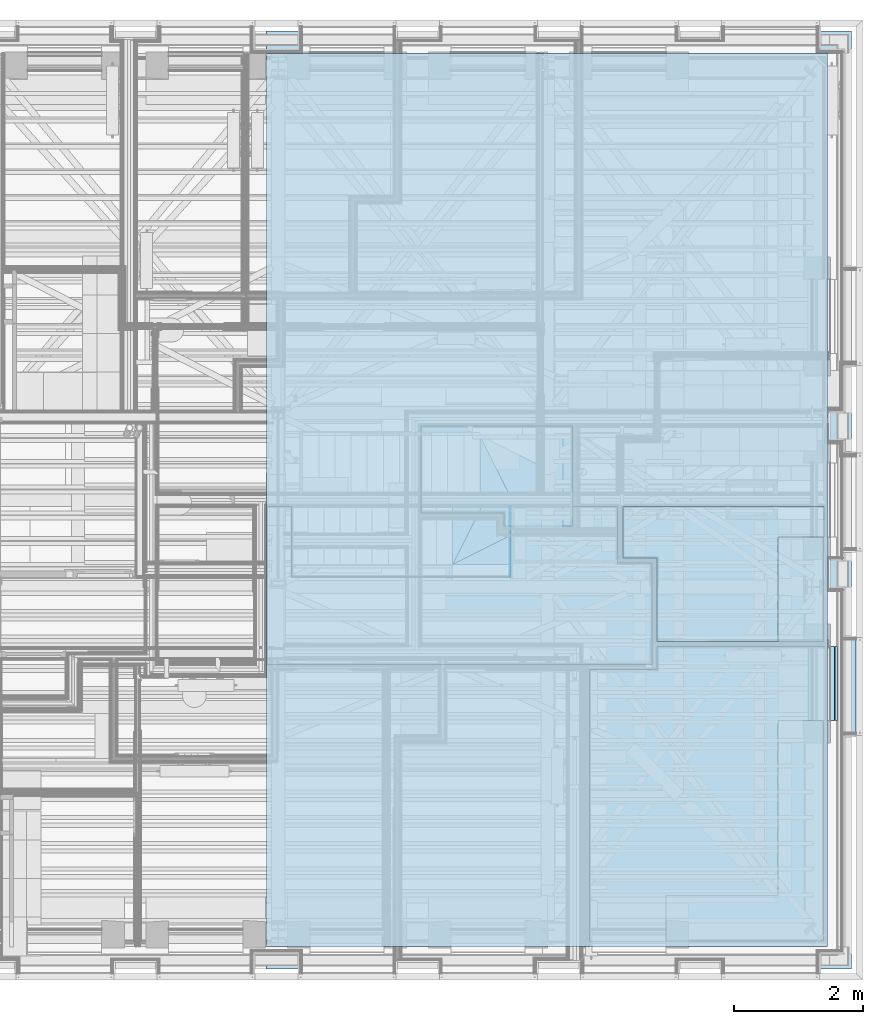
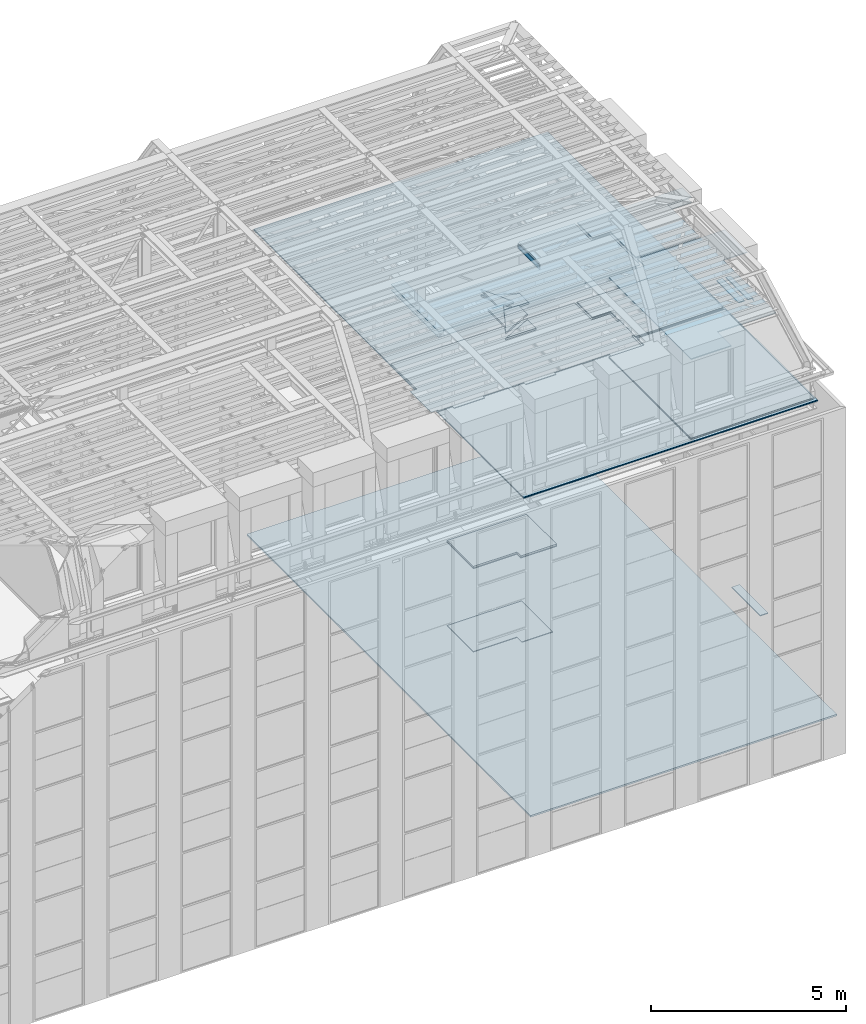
# One storey, part 93 of 183: 29 slabs.
"""IFC2X3 building model written with IfcOpenShell, lengths in metres."""

import ifcopenshell
import ifcopenshell.guid

model = None  # the IFC model being written
_history = None  # IfcOwnerHistory: only IFC2X3 demands one
_inside = {}  # id of a spatial element -> (the spatial element, [elements in it])
_under = {}  # id of a project, library or spatial element -> (it, [spatial elements below it])
_declared = {}  # id of a project -> (the project, [libraries it declares])
_typed = {}  # id of a type object -> (the type object, [elements of that type])
_made_of = {}  # id of a material, layer set ... -> (it, [elements and type objects made of it])


def new_model(schema):
    """Start an empty IFC model of exactly this schema.

    Asked for "IFC4X3", IfcOpenShell would pick the latest addendum, in which some entities
    have other attributes; the version numbers below select the first issue.
    IFC2X3 requires an IfcOwnerHistory on every rooted entity: one is made here for all.
    """
    global model, _history
    if schema == "IFC4X3":
        model = ifcopenshell.file(schema_version=(4, 3, 0, 0))
    else:
        model = ifcopenshell.file(schema=schema)
    _inside.clear()
    _under.clear()
    _declared.clear()
    _typed.clear()
    _made_of.clear()
    _history = None
    if model.schema == "IFC2X3":
        org = make("IfcOrganization", Name="unknown")
        user = make(
            "IfcPersonAndOrganization",
            ThePerson=make("IfcPerson", FamilyName="unknown"),
            TheOrganization=org,
        )
        app = make(
            "IfcApplication",
            ApplicationDeveloper=org,
            Version="unknown",
            ApplicationFullName="unknown",
            ApplicationIdentifier="unknown",
        )
        _history = make(
            "IfcOwnerHistory",
            OwningUser=user,
            OwningApplication=app,
            ChangeAction="ADDED",
            CreationDate=0,
        )
    return model


def make(cls, **values):
    """One entity of the class cls with the attributes given. An attribute that is None is left unset."""
    return model.create_entity(
        cls, **{name: value for name, value in values.items() if value is not None}
    )


def entity(cls, *values):
    """Any entity or typed value of the class cls, its attributes in the order of the schema. None: left unset."""
    e = model.create_entity(cls)
    for i, value in enumerate(values):
        if value is not None:
            e[i] = value
    return e


def rooted(cls, **values):
    """An entity with a GlobalId (a new one), such as an element, a storey or a relation."""
    return make(cls, GlobalId=ifcopenshell.guid.new(), OwnerHistory=_history, **values)


def si_unit(unit_type, name, prefix=None):
    """IfcSIUnit, for example si_unit("LENGTHUNIT", "METRE", prefix="MILLI")."""
    return make("IfcSIUnit", UnitType=unit_type, Prefix=prefix, Name=name)


def converted_unit(unit_type, name, factor, base, dimensions=None, offset=None):
    """IfcConversionBasedUnit, such as the inch: factor (a typed value) times the base unit."""
    return make(
        "IfcConversionBasedUnit"
        if offset is None
        else "IfcConversionBasedUnitWithOffset",
        ConversionOffset=offset,
        Dimensions=None
        if dimensions is None
        else entity("IfcDimensionalExponents", *dimensions),
        UnitType=unit_type,
        Name=name,
        ConversionFactor=make(
            "IfcMeasureWithUnit", ValueComponent=factor, UnitComponent=base
        ),
    )


def derived_unit(unit_type, elements):
    """IfcDerivedUnit: a product of units, each with its exponent."""
    return make(
        "IfcDerivedUnit",
        Elements=[
            make("IfcDerivedUnitElement", Unit=unit, Exponent=power)
            for unit, power in elements
        ],
        UnitType=unit_type,
    )


def money_unit(currency):
    """IfcMonetaryUnit."""
    return make("IfcMonetaryUnit", Currency=currency)


def assignment(units):
    """IfcUnitAssignment: the units of a project."""
    return None if units is None else make("IfcUnitAssignment", Units=units)


def point(xyz):
    """IfcCartesianPoint."""
    return None if xyz is None else make("IfcCartesianPoint", Coordinates=xyz)


def direction(xyz):
    """IfcDirection."""
    return None if xyz is None else make("IfcDirection", DirectionRatios=xyz)


def frame(location, z_axis=None, x_axis=None):
    """IfcAxis2Placement3D, a coordinate frame: its origin and axes. An axis left out is left unset."""
    return make(
        "IfcAxis2Placement3D",
        Location=point(location),
        Axis=direction(z_axis),
        RefDirection=direction(x_axis),
    )


def origin_with_axes():
    """The frame at (0, 0, 0) with the z axis (0, 0, 1) and the x axis (1, 0, 0) written out."""
    return frame((0.0, 0.0, 0.0), z_axis=(0.0, 0.0, 1.0), x_axis=(1.0, 0.0, 0.0))


def place(relative_to, where):
    """IfcLocalPlacement: puts the frame where relative to a parent placement (None: the world)."""
    return make(
        "IfcLocalPlacement", PlacementRelTo=relative_to, RelativePlacement=where
    )


def context(
    kind, dimensions, precision=None, world=None, true_north=None, identifier=None
):
    """IfcGeometricRepresentationContext, for example the 3D "Model" context."""
    return make(
        "IfcGeometricRepresentationContext",
        ContextIdentifier=identifier,
        ContextType=kind,
        CoordinateSpaceDimension=dimensions,
        Precision=precision,
        WorldCoordinateSystem=world,
        TrueNorth=true_north,
    )


def subcontext(parent, identifier, kind, view, scale=None):
    """IfcGeometricRepresentationSubContext, for example "Body" below "Model"."""
    return make(
        "IfcGeometricRepresentationSubContext",
        ContextIdentifier=identifier,
        ContextType=kind,
        ParentContext=parent,
        TargetScale=scale,
        TargetView=view,
    )


def project(units=None, contexts=None):
    """IfcProject with its units and contexts."""
    return rooted(
        "IfcProject",
        Name="project",
        RepresentationContexts=contexts,
        UnitsInContext=assignment(units),
    )


def spatial(cls, under=None, at=None, **own):
    """A site, building, storey or space (cls), placed at a placement, below another one or the project."""
    s = rooted(cls, ObjectPlacement=at, **own)
    if under is not None:
        _under.setdefault(under.id(), (under, []))[1].append(s)
    return s


def faces_of(points, faces, orient=None, outer=None):
    """IfcFace entities. A face is a list of loops; a loop is a list of indices into points, from 0.

    orient and outer hold one flag for each loop. By default every Orientation is true, the
    first loop of a face is its IfcFaceOuterBound and the others are IfcFaceBound.
    """
    made = []
    for i, loops in enumerate(faces):
        bounds = []
        for j, loop in enumerate(loops):
            is_outer = j == 0 if outer is None else outer[i][j]
            bounds.append(
                make(
                    "IfcFaceOuterBound" if is_outer else "IfcFaceBound",
                    Bound=make("IfcPolyLoop", Polygon=[points[k] for k in loop]),
                    Orientation=True if orient is None else orient[i][j],
                )
            )
        made.append(make("IfcFace", Bounds=bounds))
    return made


def faceted_brep(points, faces, orient=None, outer=None, voids=None):
    """IfcFacetedBrep: a solid bounded by flat faces; with voids (closed shells), ...WithVoids."""
    shared = [point(p) for p in points]
    hull = make("IfcClosedShell", CfsFaces=faces_of(shared, faces, orient, outer))
    if voids is None:
        return make("IfcFacetedBrep", Outer=hull)
    return make(
        "IfcFacetedBrepWithVoids",
        Outer=hull,
        Voids=[
            make(cls, CfsFaces=faces_of(shared, fs, o, b)) for cls, fs, o, b in voids
        ],
    )


def shape(context_of_items, identifier, shape_type, items):
    """IfcShapeRepresentation: the items that make up one representation, for example the "Body"."""
    return make(
        "IfcShapeRepresentation",
        ContextOfItems=context_of_items,
        RepresentationIdentifier=identifier,
        RepresentationType=shape_type,
        Items=items,
    )


def material(Name=None, Category=None):
    """IfcMaterial."""
    return make("IfcMaterial", Name=Name, Category=Category)


def made_of(thing, what):
    """Note that an element or type object is made of a material, layer set ...; save() writes the relation."""
    if what is not None:
        _made_of.setdefault(what.id(), (what, []))[1].append(thing)
    return thing


def type_object(cls, material=None, **own):
    """A type object (cls), such as IfcWallType, which elements share."""
    return made_of(rooted(cls, **own), material)


def element(
    cls,
    number,
    at=None,
    inside=None,
    cuts=None,
    type_object=None,
    material=None,
    context=None,
    identifier="Body",
    shape_type=None,
    held_by="IfcProductDefinitionShape",
    body=None,
    shapes=None,
    **own,
):
    """One element of the class cls, such as IfcWall. Its Tag is "e" and its number.

    at: its placement. inside: the storey or other place that contains it. cuts: it is an
    opening in that element (IfcRelVoidsElement). A single representation is given by context,
    identifier, shape_type and body (its items); several are given by shapes. held_by: the class
    of the entity that holds the representations. save() writes the other relations.
    """
    e = rooted(cls, Tag="e%d" % number, ObjectPlacement=at, **own)
    if body is not None:
        shapes = [shape(context, identifier, shape_type, body)]
    if shapes is not None:
        e.Representation = make(held_by, Representations=shapes)
    if inside is not None:
        _inside.setdefault(inside.id(), (inside, []))[1].append(e)
    if cuts is not None:
        rooted(
            "IfcRelVoidsElement", RelatingBuildingElement=cuts, RelatedOpeningElement=e
        )
    if type_object is not None:
        _typed.setdefault(type_object.id(), (type_object, []))[1].append(e)
    return made_of(e, material)


def aggregate(whole, parts):
    """IfcRelAggregates: a whole, such as a stair, and the parts it consists of."""
    return rooted("IfcRelAggregates", RelatingObject=whole, RelatedObjects=parts)


def save(model, path):
    """Write the relations noted so far, then the file.

    IfcRelAggregates (storeys below a building ...), IfcRelContainedInSpatialStructure (elements
    in a storey), IfcRelDefinesByType, IfcRelAssociatesMaterial and IfcRelDeclares: one each for
    every whole, place, type object, material and project.
    """
    for whole, parts in _under.values():
        aggregate(whole, parts)
    for where, things in _inside.values():
        rooted(
            "IfcRelContainedInSpatialStructure",
            RelatedElements=things,
            RelatingStructure=where,
        )
    for kind, things in _typed.values():
        rooted("IfcRelDefinesByType", RelatedObjects=things, RelatingType=kind)
    for what, things in _made_of.values():
        rooted("IfcRelAssociatesMaterial", RelatedObjects=things, RelatingMaterial=what)
    for by, libraries in _declared.values():
        rooted("IfcRelDeclares", RelatingContext=by, RelatedDefinitions=libraries)
    model.write(path)


model = new_model("IFC2X3")

# Units and contexts
model_context = context("Model", 3, precision=1e-05, world=origin_with_axes(), true_north=direction((0.0, 1.0)))
body_context = subcontext(model_context, "Body", "Model", "MODEL_VIEW", scale=1.0)
ifc_project = project(units=[si_unit("LENGTHUNIT", "METRE"), si_unit("AREAUNIT", "SQUARE_METRE"), si_unit("VOLUMEUNIT", "CUBIC_METRE"), si_unit("ABSORBEDDOSEUNIT", "GRAY"), si_unit("AMOUNTOFSUBSTANCEUNIT", "MOLE"), si_unit("DOSEEQUIVALENTUNIT", "SIEVERT"), si_unit("ELECTRICCAPACITANCEUNIT", "FARAD"), si_unit("ELECTRICCHARGEUNIT", "COULOMB"), si_unit("ELECTRICCONDUCTANCEUNIT", "SIEMENS"), si_unit("ELECTRICCURRENTUNIT", "AMPERE"), si_unit("ELECTRICRESISTANCEUNIT", "OHM"), si_unit("ELECTRICVOLTAGEUNIT", "VOLT"), si_unit("ENERGYUNIT", "JOULE"), si_unit("FORCEUNIT", "NEWTON"), si_unit("FREQUENCYUNIT", "HERTZ"), si_unit("ILLUMINANCEUNIT", "LUX"), si_unit("INDUCTANCEUNIT", "HENRY"), si_unit("LUMINOUSFLUXUNIT", "LUMEN"), si_unit("LUMINOUSINTENSITYUNIT", "CANDELA"), si_unit("MAGNETICFLUXDENSITYUNIT", "TESLA"), si_unit("MAGNETICFLUXUNIT", "WEBER"), si_unit("MASSUNIT", "GRAM"), converted_unit("PLANEANGLEUNIT", "degree", entity("IfcReal", 0.0174532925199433), si_unit("PLANEANGLEUNIT", "RADIAN"), dimensions=[0, 0, 0, 0, 0, 0, 0]), si_unit("POWERUNIT", "WATT"), si_unit("PRESSUREUNIT", "PASCAL"), si_unit("RADIOACTIVITYUNIT", "BECQUEREL"), si_unit("SOLIDANGLEUNIT", "STERADIAN"), si_unit("THERMODYNAMICTEMPERATUREUNIT", "KELVIN"), si_unit("TIMEUNIT", "SECOND"), derived_unit("ACCELERATIONUNIT", [(si_unit("LENGTHUNIT", "METRE"), 1), (si_unit("TIMEUNIT", "SECOND"), -2)]), derived_unit("ANGULARVELOCITYUNIT", [(converted_unit("PLANEANGLEUNIT", "degree", entity("IfcReal", 0.0174532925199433), si_unit("PLANEANGLEUNIT", "RADIAN"), dimensions=[0, 0, 0, 0, 0, 0, 0]), 1), (si_unit("TIMEUNIT", "SECOND"), -1)]), derived_unit("CURVATUREUNIT", [(converted_unit("PLANEANGLEUNIT", "degree", entity("IfcReal", 0.0174532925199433), si_unit("PLANEANGLEUNIT", "RADIAN"), dimensions=[0, 0, 0, 0, 0, 0, 0]), 1), (si_unit("LENGTHUNIT", "METRE"), -1)]), derived_unit("DYNAMICVISCOSITYUNIT", [(si_unit("PRESSUREUNIT", "PASCAL"), 1), (si_unit("TIMEUNIT", "SECOND"), 1)]), derived_unit("HEATFLUXDENSITYUNIT", [(si_unit("POWERUNIT", "WATT"), 1), (si_unit("LENGTHUNIT", "METRE"), -2)]), derived_unit("HEATINGVALUEUNIT", [(si_unit("ENERGYUNIT", "JOULE"), 1), (si_unit("MASSUNIT", "GRAM"), -1)]), derived_unit("INTEGERCOUNTRATEUNIT", [(si_unit("TIMEUNIT", "SECOND"), -1)]), derived_unit("IONCONCENTRATIONUNIT", [(si_unit("MASSUNIT", "GRAM"), 1), (si_unit("VOLUMEUNIT", "CUBIC_METRE"), -1)]), derived_unit("ISOTHERMALMOISTURECAPACITYUNIT", [(si_unit("VOLUMEUNIT", "CUBIC_METRE"), 1), (si_unit("MASSUNIT", "GRAM"), -1)]), derived_unit("KINEMATICVISCOSITYUNIT", [(si_unit("AREAUNIT", "SQUARE_METRE"), 1), (si_unit("TIMEUNIT", "SECOND"), -1)]), derived_unit("LINEARFORCEUNIT", [(si_unit("FORCEUNIT", "NEWTON"), 1), (si_unit("LENGTHUNIT", "METRE"), -1)]), derived_unit("LINEARMOMENTUNIT", [(si_unit("FORCEUNIT", "NEWTON"), 1), (si_unit("LENGTHUNIT", "METRE"), -1)]), derived_unit("LINEARSTIFFNESSUNIT", [(si_unit("FORCEUNIT", "NEWTON"), 1), (si_unit("LENGTHUNIT", "METRE"), -1)]), derived_unit("LINEARVELOCITYUNIT", [(si_unit("LENGTHUNIT", "METRE"), 1), (si_unit("TIMEUNIT", "SECOND"), -1)]), derived_unit("LUMINOUSINTENSITYDISTRIBUTIONUNIT", [(si_unit("LUMINOUSINTENSITYUNIT", "CANDELA"), 1), (si_unit("LUMINOUSFLUXUNIT", "LUMEN"), -1)]), derived_unit("MASSDENSITYUNIT", [(si_unit("MASSUNIT", "GRAM"), 1), (si_unit("VOLUMEUNIT", "CUBIC_METRE"), -1)]), derived_unit("MASSFLOWRATEUNIT", [(si_unit("MASSUNIT", "GRAM"), 1), (si_unit("TIMEUNIT", "SECOND"), -1)]), derived_unit("MASSPERLENGTHUNIT", [(si_unit("MASSUNIT", "GRAM"), 1), (si_unit("LENGTHUNIT", "METRE"), -1)]), derived_unit("MODULUSOFELASTICITYUNIT", [(si_unit("FORCEUNIT", "NEWTON"), 1), (si_unit("AREAUNIT", "SQUARE_METRE"), -1)]), derived_unit("MODULUSOFLINEARSUBGRADEREACTIONUNIT", [(si_unit("FORCEUNIT", "NEWTON"), 1), (si_unit("LENGTHUNIT", "METRE"), -2)]), derived_unit("MODULUSOFROTATIONALSUBGRADEREACTIONUNIT", [(si_unit("FORCEUNIT", "NEWTON"), 1), (si_unit("LENGTHUNIT", "METRE"), 1)]), derived_unit("MODULUSOFSUBGRADEREACTIONUNIT", [(si_unit("FORCEUNIT", "NEWTON"), 1), (si_unit("VOLUMEUNIT", "CUBIC_METRE"), -1)]), derived_unit("MOISTUREDIFFUSIVITYUNIT", [(si_unit("VOLUMEUNIT", "CUBIC_METRE"), 1), (si_unit("TIMEUNIT", "SECOND"), -1)]), derived_unit("MOLECULARWEIGHTUNIT", [(si_unit("MASSUNIT", "GRAM"), 1), (si_unit("AMOUNTOFSUBSTANCEUNIT", "MOLE"), -1)]), derived_unit("PLANARFORCEUNIT", [(si_unit("FORCEUNIT", "NEWTON"), 1), (si_unit("LENGTHUNIT", "METRE"), -2)]), derived_unit("ROTATIONALFREQUENCYUNIT", [(si_unit("TIMEUNIT", "SECOND"), -1)]), derived_unit("ROTATIONALMASSUNIT", [(si_unit("MASSUNIT", "GRAM"), 1), (si_unit("LENGTHUNIT", "METRE"), 2)]), derived_unit("ROTATIONALSTIFFNESSUNIT", [(si_unit("FORCEUNIT", "NEWTON"), 1), (si_unit("LENGTHUNIT", "METRE"), 1), (converted_unit("PLANEANGLEUNIT", "degree", entity("IfcReal", 0.0174532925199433), si_unit("PLANEANGLEUNIT", "RADIAN"), dimensions=[0, 0, 0, 0, 0, 0, 0]), -1)]), derived_unit("SECTIONAREAINTEGRALUNIT", [(si_unit("LENGTHUNIT", "METRE"), 5)]), derived_unit("SECTIONMODULUSUNIT", [(si_unit("LENGTHUNIT", "METRE"), 3)]), derived_unit("SHEARMODULUSUNIT", [(si_unit("FORCEUNIT", "NEWTON"), 1), (si_unit("AREAUNIT", "SQUARE_METRE"), -1)]), derived_unit("SOUNDPOWERUNIT", [(si_unit("ENERGYUNIT", "JOULE"), 1), (si_unit("TIMEUNIT", "SECOND"), -1)]), derived_unit("SPECIFICHEATCAPACITYUNIT", [(si_unit("FORCEUNIT", "NEWTON"), 1), (si_unit("MASSUNIT", "GRAM"), -1), (si_unit("THERMODYNAMICTEMPERATUREUNIT", "KELVIN"), -1)]), derived_unit("TEMPERATUREGRADIENTUNIT", [(si_unit("THERMODYNAMICTEMPERATUREUNIT", "KELVIN"), 1), (si_unit("LENGTHUNIT", "METRE"), -1)]), derived_unit("THERMALADMITTANCEUNIT", [(si_unit("POWERUNIT", "WATT"), 1), (si_unit("AREAUNIT", "SQUARE_METRE"), -1), (si_unit("THERMODYNAMICTEMPERATUREUNIT", "KELVIN"), -1)]), derived_unit("THERMALCONDUCTANCEUNIT", [(si_unit("POWERUNIT", "WATT"), 1), (si_unit("LENGTHUNIT", "METRE"), -1), (si_unit("THERMODYNAMICTEMPERATUREUNIT", "KELVIN"), -1)]), derived_unit("THERMALEXPANSIONCOEFFICIENTUNIT", [(si_unit("THERMODYNAMICTEMPERATUREUNIT", "KELVIN"), -1)]), derived_unit("THERMALRESISTANCEUNIT", [(si_unit("AREAUNIT", "SQUARE_METRE"), 1), (si_unit("POWERUNIT", "WATT"), -1)]), derived_unit("THERMALTRANSMITTANCEUNIT", [(si_unit("POWERUNIT", "WATT"), 1), (si_unit("AREAUNIT", "SQUARE_METRE"), -1), (si_unit("THERMODYNAMICTEMPERATUREUNIT", "KELVIN"), -1)]), derived_unit("TORQUEUNIT", [(si_unit("FORCEUNIT", "NEWTON"), 1), (si_unit("LENGTHUNIT", "METRE"), 1)]), derived_unit("VAPORPERMEABILITYUNIT", [(si_unit("MASSUNIT", "GRAM"), 1), (si_unit("TIMEUNIT", "SECOND"), -1)]), derived_unit("VOLUMETRICFLOWRATEUNIT", [(si_unit("VOLUMEUNIT", "CUBIC_METRE"), 1), (si_unit("TIMEUNIT", "SECOND"), -1)]), derived_unit("WARPINGCONSTANTUNIT", [(si_unit("LENGTHUNIT", "METRE"), 6)]), derived_unit("WARPINGMOMENTUNIT", [(si_unit("FORCEUNIT", "NEWTON"), 1), (si_unit("LENGTHUNIT", "METRE"), 2)]), money_unit("GBP")], contexts=[model_context])

# Site, building, storey
site_placement = place(None, origin_with_axes())
site = spatial("IfcSite", under=ifc_project, at=site_placement, Name="Site", CompositionType="ELEMENT")
building_placement = place(site_placement, origin_with_axes())
building = spatial("IfcBuilding", under=site, at=building_placement, Name="Building01", CompositionType="ELEMENT")
storey_placement = place(building_placement, frame((0.0, 0.0, 5.15), z_axis=(0.0, 0.0, 1.0), x_axis=(1.0, 0.0, 0.0)))
storey = spatial("IfcBuildingStorey", under=building, at=storey_placement, Name="1F", CompositionType="ELEMENT", Elevation=5.15)

# Slabs
ifc_material_1 = material(Name="A_BSUK_InternalFinishes_FloorScreed")
slab_type_1 = type_object("IfcSlabType", Name="A-FloorsSlabs A_BSUK_Slabs", PredefinedType="FLOOR")
placement = place(storey_placement, frame((0.0, 0.0, -5.15), z_axis=(0.0, 0.0, 1.0), x_axis=(1.0, 0.0, 0.0)))
element("IfcSlab", 1, at=placement, inside=storey, type_object=slab_type_1, material=ifc_material_1, Name="A-FloorsSlabs A_BSUK_Slabs", ObjectType="CompoundSlabLeaf", context=body_context, shape_type="Brep", body=[
    faceted_brep([(17.73, 14.73, 5.1), (17.73, 14.73, 5.15), (26.81, 14.73, 5.15), (26.81, 14.73, 5.1), (17.73, 0.17, 5.1), (17.73, 0.17, 5.15), (26.81, 0.17, 5.1), (26.81, 0.17, 5.15)], [[[0, 1, 2, 3]], [[4, 5, 1, 0]], [[6, 7, 5, 4]], [[3, 2, 7, 6]], [[1, 5, 7, 2]], [[3, 6, 4, 0]]]),
])
ifc_material_2 = material(Name="A_BSUK_Ceramic_FloorTiles")
element("IfcSlab", 2, at=placement, inside=storey, type_object=slab_type_1, material=ifc_material_2, Name="A-FloorsSlabs A_BSUK_Slabs", ObjectType="CompoundSlabLeaf", context=body_context, shape_type="Brep", body=[
    faceted_brep([(20.122661, 8.595, 5.153), (20.122661, 8.595, 5.165), (22.326661, 8.595, 5.165), (22.326661, 8.595, 5.153), (20.122661, 7.25, 5.153), (20.122661, 7.25, 5.165), (21.417661, 7.25, 5.153), (21.417661, 7.25, 5.165), (21.417661, 7.0, 5.153), (21.417661, 7.0, 5.165), (22.326661, 7.0, 5.153), (22.326661, 7.0, 5.165)], [[[0, 1, 2, 3]], [[4, 5, 1, 0]], [[6, 7, 5, 4]], [[8, 9, 7, 6]], [[10, 11, 9, 8]], [[3, 2, 11, 10]], [[1, 5, 7, 9, 11, 2]], [[3, 10, 8, 6, 4, 0]]]),
])
ifc_material_3 = material(Name="A_BSUK_CeilingSoffitFinishes_Suspended")
element("IfcSlab", 3, at=placement, inside=storey, type_object=slab_type_1, material=ifc_material_3, Name="A-FloorsSlabs A_BSUK_Slabs", ObjectType="CompoundSlabLeaf", context=body_context, shape_type="Brep", body=[
    faceted_brep([(20.122661, 8.595, 7.765), (20.122661, 8.595, 7.78), (22.476661, 8.595, 7.78), (22.476661, 8.595, 7.765), (20.122661, 7.25, 7.765), (20.122661, 7.25, 7.78), (21.417661, 7.25, 7.765), (21.417661, 7.25, 7.78), (21.417661, 7.05, 7.765), (21.417661, 7.05, 7.78), (22.476661, 7.05, 7.765), (22.476661, 7.05, 7.78)], [[[0, 1, 2, 3]], [[4, 5, 1, 0]], [[6, 7, 5, 4]], [[8, 9, 7, 6]], [[10, 11, 9, 8]], [[3, 2, 11, 10]], [[1, 5, 7, 9, 11, 2]], [[3, 10, 8, 6, 4, 0]]]),
])
ifc_material_4 = material(Name="A_BSUK_Timber_Miscellaneous")
element("IfcSlab", 4, at=placement, inside=storey, type_object=slab_type_1, material=ifc_material_4, Name="A-FloorsSlabs A_BSUK_Slabs", ObjectType="CompoundSlabLeaf", context=body_context, shape_type="Brep", body=[
    faceted_brep([(26.88, 3.82218, 6.065), (26.88, 3.82218, 6.09), (26.646998, 3.82218, 6.09), (26.646998, 3.82218, 6.065), (26.88, 5.29218, 6.065), (26.88, 5.29218, 6.09), (26.647, 5.29218, 6.065), (26.647, 5.29218, 6.09)], [[[0, 1, 2, 3]], [[4, 5, 1, 0]], [[6, 7, 5, 4]], [[3, 2, 7, 6]], [[1, 5, 7, 2]], [[3, 6, 4, 0]]]),
])
slab_5_placement = place(storey_placement, frame((26.404661, 5.174964, 10.78), z_axis=(0.0, 0.0, 1.0), x_axis=(0.0, -1.0, 0.0)))
element("IfcSlab", 5, at=slab_5_placement, inside=storey, type_object=slab_type_1, material=ifc_material_4, Name="A-FloorsSlabs A_BSUK_Slabs", ObjectType="A-FloorsSlabs A_BSUK_Slabs", context=body_context, shape_type="Brep", body=[
    faceted_brep([(0.0, 0.0, 0.0), (1.15, 0.0, 0.0), (1.15, 0.0, 0.022498), (0.0, 0.0, 0.022498), (1.15, 0.142391, 0.017505), (0.0, 0.142391, 0.017505), (1.15, 0.148079, 0.0), (0.0, 0.148079, 0.0)], [[[0, 1, 2, 3]], [[3, 2, 4, 5]], [[5, 4, 6, 7]], [[7, 6, 1, 0]], [[1, 6, 4, 2]], [[3, 5, 7, 0]]]),
])
ifc_material_5 = material(Name="A_BSUK_Steel_Miscellaneous")
slab_6_placement = place(storey_placement, frame((26.404661, 5.174964, 10.802498), z_axis=(0.0, 0.0, 1.0), x_axis=(0.0, -1.0, 0.0)))
element("IfcSlab", 6, at=slab_6_placement, inside=storey, type_object=slab_type_1, material=ifc_material_5, Name="A-FloorsSlabs A_BSUK_Slabs", ObjectType="A-FloorsSlabs A_BSUK_Slabs", context=body_context, shape_type="Brep", body=[
    faceted_brep([(0.0, 0.0, 0.0), (1.15, 0.0, 0.0), (1.15, 0.0, 0.007502), (0.0, 0.0, 0.007502), (1.15, 0.001, 0.007502), (0.0, 0.001, 0.007502), (1.15, 0.0025, 0.002414), (0.0, 0.0025, 0.002414), (1.15, 0.144228, -0.002556), (0.0, 0.144228, -0.002556), (1.15, 0.183199, -0.122498), (0.0, 0.183199, -0.122498), (1.15, 0.183199, -0.127498), (0.0, 0.183199, -0.127498), (1.15, 0.180699, -0.127498), (0.0, 0.180699, -0.127498), (1.15, 0.180699, -0.122894), (0.0, 0.180699, -0.122894), (1.15, 0.142391, -0.004993), (0.0, 0.142391, -0.004993)], [[[0, 1, 2, 3]], [[3, 2, 4, 5]], [[5, 4, 6, 7]], [[7, 6, 8, 9]], [[9, 8, 10, 11]], [[11, 10, 12, 13]], [[13, 12, 14, 15]], [[15, 14, 16, 17]], [[17, 16, 18, 19]], [[19, 18, 1, 0]], [[1, 18, 16, 14, 12, 10, 8, 6, 4, 2]], [[3, 5, 7, 9, 11, 13, 15, 17, 19, 0]]]),
])
element("IfcSlab", 7, at=placement, inside=storey, type_object=slab_type_1, material=ifc_material_3, Name="A-FloorsSlabs A_BSUK_Slabs", ObjectType="CompoundSlabLeaf", context=body_context, shape_type="Brep", body=[
    faceted_brep([(23.79, 5.174915, 17.423), (23.79, 5.174915, 17.438), (26.380061, 5.174915, 17.438), (26.380061, 5.174915, 17.423), (23.79, 4.817, 17.423), (23.79, 4.817, 17.438), (22.740024, 4.817, 17.423), (22.740024, 4.817, 17.438), (22.740024, 0.599939, 17.423), (22.740024, 0.599939, 17.438), (23.930024, 0.599939, 17.423), (23.930024, 0.599939, 17.438), (23.930024, 1.312402, 17.423), (23.930024, 1.312402, 17.438), (25.667598, 1.312402, 17.423), (25.667598, 1.312402, 17.438), (25.667598, 4.024964, 17.423), (25.667598, 4.024964, 17.438), (26.380061, 4.024964, 17.423), (26.380061, 4.024964, 17.438)], [[[0, 1, 2, 3]], [[4, 5, 1, 0]], [[6, 7, 5, 4]], [[8, 9, 7, 6]], [[10, 11, 9, 8]], [[12, 13, 11, 10]], [[14, 15, 13, 12]], [[16, 17, 15, 14]], [[18, 19, 17, 16]], [[3, 2, 19, 18]], [[1, 5, 7, 9, 11, 13, 15, 17, 19, 2]], [[3, 18, 16, 14, 12, 10, 8, 6, 4, 0]]]),
])
element("IfcSlab", 8, at=placement, inside=storey, type_object=slab_type_1, material=ifc_material_3, Name="A-FloorsSlabs A_BSUK_Slabs", ObjectType="CompoundSlabLeaf", context=body_context, shape_type="Brep", body=[
    faceted_brep([(23.258821, 7.349915, 17.423), (23.258821, 7.349915, 17.438), (26.380061, 7.349915, 17.438), (26.380061, 7.349915, 17.423), (23.258821, 6.550085, 17.423), (23.258821, 6.550085, 17.438), (23.79, 6.550085, 17.423), (23.79, 6.550085, 17.438), (23.79, 5.254915, 17.423), (23.79, 5.254915, 17.438), (25.667598, 5.254915, 17.423), (25.667598, 5.254915, 17.438), (25.667598, 6.874964, 17.423), (25.667598, 6.874964, 17.438), (26.380061, 6.874964, 17.423), (26.380061, 6.874964, 17.438)], [[[0, 1, 2, 3]], [[4, 5, 1, 0]], [[6, 7, 5, 4]], [[8, 9, 7, 6]], [[10, 11, 9, 8]], [[12, 13, 11, 10]], [[14, 15, 13, 12]], [[3, 2, 15, 14]], [[1, 5, 7, 9, 11, 13, 15, 2]], [[3, 14, 12, 10, 8, 6, 4, 0]]]),
])
ifc_material_6 = material(Name="A_BSUK_ExpandedPolystyreneBoards")
element("IfcSlab", 9, at=placement, inside=storey, type_object=slab_type_1, material=ifc_material_6, Name="A-FloorsSlabs A_BSUK_Slabs", ObjectType="CompoundSlabLeaf", context=body_context, shape_type="Brep", body=[
    faceted_brep([(23.79, 5.174915, 14.92), (23.79, 5.174915, 14.952), (26.3762, 5.174915, 14.952), (26.3762, 5.174915, 14.92), (23.79, 4.817, 14.92), (23.79, 4.817, 14.952), (22.740024, 4.817, 14.92), (22.740024, 4.817, 14.952), (22.740024, 0.6038, 14.92), (22.740024, 0.6038, 14.952), (23.930024, 0.6038, 14.92), (23.930024, 0.6038, 14.952), (26.3762, 0.6038, 14.92), (26.3762, 0.6038, 14.952), (26.3762, 4.024964, 14.92), (26.3762, 4.024964, 14.952)], [[[0, 1, 2, 3]], [[4, 5, 1, 0]], [[6, 7, 5, 4]], [[8, 9, 7, 6]], [[10, 11, 9, 8]], [[12, 13, 11, 10]], [[14, 15, 13, 12]], [[3, 2, 15, 14]], [[1, 5, 7, 9, 11, 13, 15, 2]], [[3, 14, 12, 10, 8, 6, 4, 0]]]),
])
element("IfcSlab", 10, at=placement, inside=storey, type_object=slab_type_1, material=ifc_material_6, Name="A-FloorsSlabs A_BSUK_Slabs", ObjectType="CompoundSlabLeaf", context=body_context, shape_type="Brep", body=[
    faceted_brep([(23.258821, 7.349915, 14.92), (23.258821, 7.349915, 14.952), (26.3762, 7.349915, 14.952), (26.3762, 7.349915, 14.92), (23.258821, 6.550085, 14.92), (23.258821, 6.550085, 14.952), (23.79, 6.550085, 14.92), (23.79, 6.550085, 14.952), (23.79, 5.254915, 14.92), (23.79, 5.254915, 14.952), (26.3762, 5.254915, 14.92), (26.3762, 5.254915, 14.952), (26.3762, 6.874964, 14.92), (26.3762, 6.874964, 14.952)], [[[0, 1, 2, 3]], [[4, 5, 1, 0]], [[6, 7, 5, 4]], [[8, 9, 7, 6]], [[10, 11, 9, 8]], [[12, 13, 11, 10]], [[3, 2, 13, 12]], [[1, 5, 7, 9, 11, 13, 2]], [[3, 12, 10, 8, 6, 4, 0]]]),
])
element("IfcSlab", 11, at=placement, inside=storey, type_object=slab_type_1, material=ifc_material_4, Name="A-FloorsSlabs A_BSUK_Slabs", ObjectType="CompoundSlabLeaf", context=body_context, shape_type="Brep", body=[
    faceted_brep([(26.304661, 4.024964, 15.93), (26.304661, 4.024964, 15.955), (26.130059, 4.024964, 15.955), (26.130059, 4.024964, 15.93), (26.304661, 5.174964, 15.93), (26.304661, 5.174964, 15.955), (26.130061, 5.174964, 15.93), (26.130061, 5.174964, 15.955)], [[[0, 1, 2, 3]], [[4, 5, 1, 0]], [[6, 7, 5, 4]], [[3, 2, 7, 6]], [[1, 5, 7, 2]], [[3, 6, 4, 0]]]),
])
element("IfcSlab", 12, at=placement, inside=storey, type_object=slab_type_1, material=ifc_material_3, Name="A-FloorsSlabs A_BSUK_Slabs", ObjectType="CompoundSlabLeaf", context=body_context, shape_type="Brep", body=[
    faceted_brep([(23.79, 5.174915, 17.438), (23.79, 5.174915, 17.453), (26.380061, 5.174915, 17.453), (26.380061, 5.174915, 17.438), (23.79, 4.817, 17.438), (23.79, 4.817, 17.453), (22.740024, 4.817, 17.438), (22.740024, 4.817, 17.453), (22.740024, 0.599939, 17.438), (22.740024, 0.599939, 17.453), (23.930024, 0.599939, 17.438), (23.930024, 0.599939, 17.453), (23.930024, 1.312402, 17.438), (23.930024, 1.312402, 17.453), (25.667598, 1.312402, 17.438), (25.667598, 1.312402, 17.453), (25.667598, 4.024964, 17.438), (25.667598, 4.024964, 17.453), (26.380061, 4.024964, 17.438), (26.380061, 4.024964, 17.453)], [[[0, 1, 2, 3]], [[4, 5, 1, 0]], [[6, 7, 5, 4]], [[8, 9, 7, 6]], [[10, 11, 9, 8]], [[12, 13, 11, 10]], [[14, 15, 13, 12]], [[16, 17, 15, 14]], [[18, 19, 17, 16]], [[3, 2, 19, 18]], [[1, 5, 7, 9, 11, 13, 15, 17, 19, 2]], [[3, 18, 16, 14, 12, 10, 8, 6, 4, 0]]]),
])
element("IfcSlab", 13, at=placement, inside=storey, type_object=slab_type_1, material=ifc_material_3, Name="A-FloorsSlabs A_BSUK_Slabs", ObjectType="CompoundSlabLeaf", context=body_context, shape_type="Brep", body=[
    faceted_brep([(17.73844, 7.349915, 17.438), (17.73844, 7.349915, 17.453), (18.11844, 7.349915, 17.453), (18.11844, 7.349915, 17.438), (17.73844, 4.897, 17.438), (17.73844, 4.897, 17.453), (23.71, 4.897, 17.438), (23.71, 4.897, 17.453), (23.71, 6.470085, 17.438), (23.71, 6.470085, 17.453), (23.178821, 6.470085, 17.438), (23.178821, 6.470085, 17.453), (23.178821, 7.349915, 17.438), (23.178821, 7.349915, 17.453), (21.51844, 7.349915, 17.438), (21.51844, 7.349915, 17.453), (21.51844, 6.252627, 17.438), (21.51844, 6.252627, 17.453), (18.11844, 6.252627, 17.438), (18.11844, 6.252627, 17.453)], [[[0, 1, 2, 3]], [[4, 5, 1, 0]], [[6, 7, 5, 4]], [[8, 9, 7, 6]], [[10, 11, 9, 8]], [[12, 13, 11, 10]], [[14, 15, 13, 12]], [[16, 17, 15, 14]], [[18, 19, 17, 16]], [[3, 2, 19, 18]], [[1, 5, 7, 9, 11, 13, 15, 17, 19, 2]], [[3, 18, 16, 14, 12, 10, 8, 6, 4, 0]]]),
])
element("IfcSlab", 14, at=placement, inside=storey, type_object=slab_type_1, material=ifc_material_3, Name="A-FloorsSlabs A_BSUK_Slabs", ObjectType="CompoundSlabLeaf", context=body_context, shape_type="Brep", body=[
    faceted_brep([(23.258821, 7.349915, 17.438), (23.258821, 7.349915, 17.453), (26.380061, 7.349915, 17.453), (26.380061, 7.349915, 17.438), (23.258821, 6.550085, 17.438), (23.258821, 6.550085, 17.453), (23.79, 6.550085, 17.438), (23.79, 6.550085, 17.453), (23.79, 5.254915, 17.438), (23.79, 5.254915, 17.453), (25.667598, 5.254915, 17.438), (25.667598, 5.254915, 17.453), (25.667598, 6.874964, 17.438), (25.667598, 6.874964, 17.453), (26.380061, 6.874964, 17.438), (26.380061, 6.874964, 17.453)], [[[0, 1, 2, 3]], [[4, 5, 1, 0]], [[6, 7, 5, 4]], [[8, 9, 7, 6]], [[10, 11, 9, 8]], [[12, 13, 11, 10]], [[14, 15, 13, 12]], [[3, 2, 15, 14]], [[1, 5, 7, 9, 11, 13, 15, 2]], [[3, 14, 12, 10, 8, 6, 4, 0]]]),
])
ifc_material_7 = material(Name="A_BSUK_Slabs")
element("IfcSlab", 15, at=placement, inside=storey, type_object=slab_type_1, material=ifc_material_7, Name="A-FloorsSlabs A_BSUK_Slabs", ObjectType="CompoundSlabLeaf", context=body_context, shape_type="Brep", body=[
    faceted_brep([(20.61844, 6.449939, 15.6), (20.61844, 6.449939, 15.65), (20.61844, 7.349939, 15.65), (20.61844, 7.349939, 15.6), (21.06844, 7.349939, 15.6), (21.06844, 7.349939, 15.65)], [[[0, 1, 2, 3]], [[4, 5, 1, 0]], [[3, 2, 5, 4]], [[1, 5, 2]], [[3, 4, 0]]]),
])
element("IfcSlab", 16, at=placement, inside=storey, type_object=slab_type_1, material=ifc_material_7, Name="A-FloorsSlabs A_BSUK_Slabs", ObjectType="CompoundSlabLeaf", context=body_context, shape_type="Brep", body=[
    faceted_brep([(20.61844, 6.449939, 15.42), (20.61844, 6.449939, 15.47), (21.06844, 7.349939, 15.47), (21.06844, 7.349939, 15.42), (21.51844, 6.899939, 15.42), (21.51844, 6.899939, 15.47), (21.51844, 7.349939, 15.42), (21.51844, 7.349939, 15.47)], [[[0, 1, 2, 3]], [[4, 5, 1, 0]], [[6, 7, 5, 4]], [[3, 2, 7, 6]], [[1, 5, 7, 2]], [[3, 6, 4, 0]]]),
])
element("IfcSlab", 17, at=placement, inside=storey, type_object=slab_type_1, material=ifc_material_7, Name="A-FloorsSlabs A_BSUK_Slabs", ObjectType="CompoundSlabLeaf", context=body_context, shape_type="Brep", body=[
    faceted_brep([(20.61844, 6.449939, 15.24), (20.61844, 6.449939, 15.29), (21.51844, 6.899939, 15.29), (21.51844, 6.899939, 15.24), (21.51844, 6.449939, 15.24), (21.51844, 6.449939, 15.29)], [[[0, 1, 2, 3]], [[4, 5, 1, 0]], [[3, 2, 5, 4]], [[1, 5, 2]], [[3, 4, 0]]]),
])
element("IfcSlab", 18, at=placement, inside=storey, type_object=slab_type_1, material=ifc_material_7, Name="A-FloorsSlabs A_BSUK_Slabs", ObjectType="CompoundSlabLeaf", context=body_context, shape_type="Brep", body=[
    faceted_brep([(21.039976, 7.549915, 15.42), (21.039976, 7.549915, 15.47), (21.039976, 8.449915, 15.47), (21.039976, 8.449915, 15.42), (21.489976, 7.549915, 15.42), (21.489976, 7.549915, 15.47)], [[[0, 1, 2, 3]], [[4, 5, 1, 0]], [[3, 2, 5, 4]], [[1, 5, 2]], [[3, 4, 0]]]),
])
element("IfcSlab", 19, at=placement, inside=storey, type_object=slab_type_1, material=ifc_material_7, Name="A-FloorsSlabs A_BSUK_Slabs", ObjectType="CompoundSlabLeaf", context=body_context, shape_type="Brep", body=[
    faceted_brep([(21.489976, 7.549915, 15.24), (21.489976, 7.549915, 15.29), (21.039976, 8.449915, 15.29), (21.039976, 8.449915, 15.24), (21.939976, 7.549915, 15.24), (21.939976, 7.549915, 15.29), (21.939976, 7.999915, 15.24), (21.939976, 7.999915, 15.29)], [[[0, 1, 2, 3]], [[4, 5, 1, 0]], [[6, 7, 5, 4]], [[3, 2, 7, 6]], [[1, 5, 7, 2]], [[3, 6, 4, 0]]]),
])
element("IfcSlab", 20, at=placement, inside=storey, type_object=slab_type_1, material=ifc_material_3, Name="A-FloorsSlabs A_BSUK_Slabs", ObjectType="CompoundSlabLeaf", context=body_context, shape_type="Brep", body=[
    faceted_brep([(23.258821, 7.349915, 17.258), (23.258821, 7.349915, 17.273), (26.380061, 7.349915, 17.273), (26.380061, 7.349915, 17.258), (23.258821, 6.550085, 17.258), (23.258821, 6.550085, 17.273), (23.79, 6.550085, 17.258), (23.79, 6.550085, 17.273), (23.79, 5.254915, 17.258), (23.79, 5.254915, 17.273), (25.667598, 5.254915, 17.258), (25.667598, 5.254915, 17.273), (25.667598, 6.874964, 17.258), (25.667598, 6.874964, 17.273), (26.380061, 6.874964, 17.258), (26.380061, 6.874964, 17.273)], [[[0, 1, 2, 3]], [[4, 5, 1, 0]], [[6, 7, 5, 4]], [[8, 9, 7, 6]], [[10, 11, 9, 8]], [[12, 13, 11, 10]], [[14, 15, 13, 12]], [[3, 2, 15, 14]], [[1, 5, 7, 9, 11, 13, 15, 2]], [[3, 14, 12, 10, 8, 6, 4, 0]]]),
])
element("IfcSlab", 21, at=placement, inside=storey, type_object=slab_type_1, material=ifc_material_3, Name="A-FloorsSlabs A_BSUK_Slabs", ObjectType="CompoundSlabLeaf", context=body_context, shape_type="Brep", body=[
    faceted_brep([(17.73844, 7.349915, 17.258), (17.73844, 7.349915, 17.273), (18.11844, 7.349915, 17.273), (18.11844, 7.349915, 17.258), (17.73844, 4.897, 17.258), (17.73844, 4.897, 17.273), (23.71, 4.897, 17.258), (23.71, 4.897, 17.273), (23.71, 6.470085, 17.258), (23.71, 6.470085, 17.273), (23.178821, 6.470085, 17.258), (23.178821, 6.470085, 17.273), (23.178821, 7.349915, 17.258), (23.178821, 7.349915, 17.273), (21.51844, 7.349915, 17.258), (21.51844, 7.349915, 17.273), (21.51844, 6.252627, 17.258), (21.51844, 6.252627, 17.273), (18.11844, 6.252627, 17.258), (18.11844, 6.252627, 17.273)], [[[0, 1, 2, 3]], [[4, 5, 1, 0]], [[6, 7, 5, 4]], [[8, 9, 7, 6]], [[10, 11, 9, 8]], [[12, 13, 11, 10]], [[14, 15, 13, 12]], [[16, 17, 15, 14]], [[18, 19, 17, 16]], [[3, 2, 19, 18]], [[1, 5, 7, 9, 11, 13, 15, 17, 19, 2]], [[3, 18, 16, 14, 12, 10, 8, 6, 4, 0]]]),
])
element("IfcSlab", 22, at=placement, inside=storey, type_object=slab_type_1, material=ifc_material_3, Name="A-FloorsSlabs A_BSUK_Slabs", ObjectType="CompoundSlabLeaf", context=body_context, shape_type="Brep", body=[
    faceted_brep([(21.51844, 7.349939, 17.258), (21.50344, 7.349939, 17.258), (21.50344, 7.349939, 17.403), (21.51844, 7.349939, 17.403), (21.51844, 6.252627, 17.258), (21.50344, 6.252627, 17.258), (21.51844, 6.252627, 17.403), (21.50344, 6.252627, 17.403)], [[[0, 1, 2, 3]], [[4, 5, 1, 0]], [[6, 7, 5, 4]], [[3, 2, 7, 6]], [[1, 5, 7, 2]], [[3, 6, 4, 0]]]),
])
slab_type_2 = type_object("IfcSlabType", Name="A-Finishes A_BSUK_Ceramic_FloorTiles", PredefinedType="FLOOR")
element("IfcSlab", 23, at=placement, inside=storey, type_object=slab_type_2, material=ifc_material_2, Name="A-Finishes A_BSUK_Ceramic_FloorTiles", ObjectType="CompoundSlabLeaf", context=body_context, shape_type="Brep", body=[
    faceted_brep([(23.258821, 7.349915, 14.952), (23.258821, 7.349915, 14.964), (26.3762, 7.349915, 14.964), (26.3762, 7.349915, 14.952), (23.258821, 6.550085, 14.952), (23.258821, 6.550085, 14.964), (23.79, 6.550085, 14.952), (23.79, 6.550085, 14.964), (23.79, 5.254915, 14.952), (23.79, 5.254915, 14.964), (26.3762, 5.254915, 14.952), (26.3762, 5.254915, 14.964), (26.3762, 6.874964, 14.952), (26.3762, 6.874964, 14.964)], [[[0, 1, 2, 3]], [[4, 5, 1, 0]], [[6, 7, 5, 4]], [[8, 9, 7, 6]], [[10, 11, 9, 8]], [[12, 13, 11, 10]], [[3, 2, 13, 12]], [[1, 5, 7, 9, 11, 13, 2]], [[3, 12, 10, 8, 6, 4, 0]]]),
])
slab_type_3 = type_object("IfcSlabType", Name="A-FloorsSlabs A_BSUK_ExpandedPolystyreneBoards", PredefinedType="FLOOR")
element("IfcSlab", 24, at=placement, inside=storey, type_object=slab_type_3, material=ifc_material_6, Name="A-FloorsSlabs A_BSUK_ExpandedPolystyreneBoards", ObjectType="CompoundSlabLeaf", context=body_context, shape_type="Brep", body=[
    faceted_brep([(20.122661, 8.595, 7.78), (20.122661, 8.595, 7.83), (22.476661, 8.595, 7.83), (22.476661, 8.595, 7.78), (20.122661, 7.25, 7.78), (20.122661, 7.25, 7.83), (21.417661, 7.25, 7.78), (21.417661, 7.25, 7.83), (21.417661, 7.05, 7.78), (21.417661, 7.05, 7.83), (22.476661, 7.05, 7.78), (22.476661, 7.05, 7.83)], [[[0, 1, 2, 3]], [[4, 5, 1, 0]], [[6, 7, 5, 4]], [[8, 9, 7, 6]], [[10, 11, 9, 8]], [[3, 2, 11, 10]], [[1, 5, 7, 9, 11, 2]], [[3, 10, 8, 6, 4, 0]]]),
])
ifc_material_8 = material(Name="A_BSUK_Carpet-Pile")
slab_type_4 = type_object("IfcSlabType", Name="A-Finishes A_BSUK_Carpet-Pile", PredefinedType="FLOOR")
element("IfcSlab", 25, at=placement, inside=storey, type_object=slab_type_4, material=ifc_material_8, Name="A-Finishes A_BSUK_Carpet-Pile", ObjectType="CompoundSlabLeaf", context=body_context, shape_type="Brep", body=[
    faceted_brep([(23.79, 5.174915, 14.952), (23.79, 5.174915, 14.964), (26.3762, 5.174915, 14.964), (26.3762, 5.174915, 14.952), (23.79, 4.817, 14.952), (23.79, 4.817, 14.964), (22.740024, 4.817, 14.952), (22.740024, 4.817, 14.964), (22.740024, 0.6038, 14.952), (22.740024, 0.6038, 14.964), (23.930024, 0.6038, 14.952), (23.930024, 0.6038, 14.964), (26.3762, 0.6038, 14.952), (26.3762, 0.6038, 14.964), (26.3762, 4.024964, 14.952), (26.3762, 4.024964, 14.964)], [[[0, 1, 2, 3]], [[4, 5, 1, 0]], [[6, 7, 5, 4]], [[8, 9, 7, 6]], [[10, 11, 9, 8]], [[12, 13, 11, 10]], [[14, 15, 13, 12]], [[3, 2, 15, 14]], [[1, 5, 7, 9, 11, 13, 15, 2]], [[3, 14, 12, 10, 8, 6, 4, 0]]]),
])
slab_type_5 = type_object("IfcSlabType", Name="A-FloorsSlabs A_BSUK_InternalFinishes_FloorScreed", PredefinedType="FLOOR")
element("IfcSlab", 26, at=placement, inside=storey, type_object=slab_type_5, material=ifc_material_1, Name="A-FloorsSlabs A_BSUK_InternalFinishes_FloorScreed", ObjectType="CompoundSlabLeaf", context=body_context, shape_type="Brep", body=[
    faceted_brep([(17.73, 14.38, 14.88), (17.73, 14.38, 14.89), (26.445659, 14.38, 14.89), (26.445659, 14.38, 14.88), (17.73, 0.52, 14.88), (17.73, 0.52, 14.89), (26.445659, 0.52, 14.88), (26.445659, 0.52, 14.89)], [[[0, 1, 2, 3]], [[4, 5, 1, 0]], [[6, 7, 5, 4]], [[3, 2, 7, 6]], [[1, 5, 7, 2]], [[3, 6, 4, 0]]]),
])
ifc_material_9 = material(Name="A_BSUK_InternalFinishes_Floor")
element("IfcSlab", 27, at=placement, inside=storey, type_object=slab_type_5, material=ifc_material_9, Name="A-FloorsSlabs A_BSUK_InternalFinishes_FloorScreed", ObjectType="CompoundSlabLeaf", context=body_context, shape_type="Brep", body=[
    faceted_brep([(17.73844, 7.349915, 14.952), (17.73844, 7.349915, 14.964), (18.11844, 7.349915, 14.964), (18.11844, 7.349915, 14.952), (17.73844, 6.028, 14.952), (17.73844, 6.028, 14.964), (17.53844, 6.028, 14.952), (17.53844, 6.028, 14.964), (17.53844, 4.944, 14.952), (17.53844, 4.944, 14.964), (17.73844, 4.944, 14.952), (17.73844, 4.944, 14.964), (17.73844, 4.897, 14.952), (17.73844, 4.897, 14.964), (18.149976, 4.897, 14.952), (18.149976, 4.897, 14.964), (18.149976, 4.817, 14.952), (18.149976, 4.817, 14.964), (19.049976, 4.817, 14.952), (19.049976, 4.817, 14.964), (19.049976, 4.897, 14.952), (19.049976, 4.897, 14.964), (20.269976, 4.897, 14.952), (20.269976, 4.897, 14.964), (20.269976, 4.817, 14.952), (20.269976, 4.817, 14.964), (21.169976, 4.817, 14.952), (21.169976, 4.817, 14.964), (21.169976, 4.897, 14.952), (21.169976, 4.897, 14.964), (22.81, 4.897, 14.952), (22.81, 4.897, 14.964), (22.81, 4.817, 14.952), (22.81, 4.817, 14.964), (23.71, 4.817, 14.952), (23.71, 4.817, 14.964), (23.71, 4.897, 14.952), (23.71, 4.897, 14.964), (23.71, 5.330939, 14.952), (23.71, 5.330939, 14.964), (23.79, 5.330939, 14.952), (23.79, 5.330939, 14.964), (23.79, 6.080939, 14.952), (23.79, 6.080939, 14.964), (23.71, 6.080939, 14.952), (23.71, 6.080939, 14.964), (23.71, 6.470085, 14.952), (23.71, 6.470085, 14.964), (23.178821, 6.470085, 14.952), (23.178821, 6.470085, 14.964), (23.178821, 7.349915, 14.952), (23.178821, 7.349915, 14.964), (21.51844, 7.349915, 14.952), (21.51844, 7.349915, 14.964)], [[[0, 1, 2, 3]], [[4, 5, 1, 0]], [[6, 7, 5, 4]], [[8, 9, 7, 6]], [[10, 11, 9, 8]], [[12, 13, 11, 10]], [[14, 15, 13, 12]], [[16, 17, 15, 14]], [[18, 19, 17, 16]], [[20, 21, 19, 18]], [[22, 23, 21, 20]], [[24, 25, 23, 22]], [[26, 27, 25, 24]], [[28, 29, 27, 26]], [[30, 31, 29, 28]], [[32, 33, 31, 30]], [[34, 35, 33, 32]], [[36, 37, 35, 34]], [[38, 39, 37, 36]], [[40, 41, 39, 38]], [[42, 43, 41, 40]], [[44, 45, 43, 42]], [[46, 47, 45, 44]], [[48, 49, 47, 46]], [[50, 51, 49, 48]], [[52, 53, 51, 50]], [[3, 2, 53, 52]], [[1, 5, 7, 9, 11, 13, 15, 17, 19, 21, 23, 25, 27, 29, 31, 33, 35, 37, 39, 41, 43, 45, 47, 49, 51, 53, 2]], [[3, 52, 50, 48, 46, 44, 42, 40, 38, 36, 34, 32, 30, 28, 26, 24, 22, 20, 18, 16, 14, 12, 10, 8, 6, 4, 0]]]),
])
element("IfcSlab", 28, at=placement, inside=storey, type_object=slab_type_5, material=ifc_material_1, Name="A-FloorsSlabs A_BSUK_InternalFinishes_FloorScreed", ObjectType="CompoundSlabLeaf", context=body_context, shape_type="Brep", body=[
    faceted_brep([(17.73, 14.38, 14.902), (17.73, 14.38, 14.92), (26.445659, 14.38, 14.92), (26.445659, 14.38, 14.902), (17.73, 0.52, 14.902), (17.73, 0.52, 14.92), (26.445659, 0.52, 14.902), (26.445659, 0.52, 14.92)], [[[0, 1, 2, 3]], [[4, 5, 1, 0]], [[6, 7, 5, 4]], [[3, 2, 7, 6]], [[1, 5, 7, 2]], [[3, 6, 4, 0]]]),
])
element("IfcSlab", 29, at=placement, inside=storey, type_object=slab_type_5, material=ifc_material_6, Name="A-FloorsSlabs A_BSUK_InternalFinishes_FloorScreed", ObjectType="CompoundSlabLeaf", context=body_context, shape_type="Brep", body=[
    faceted_brep([(17.73, 14.38, 14.89), (17.73, 14.38, 14.902), (26.445659, 14.38, 14.902), (26.445659, 14.38, 14.89), (17.73, 0.52, 14.89), (17.73, 0.52, 14.902), (26.445659, 0.52, 14.89), (26.445659, 0.52, 14.902)], [[[0, 1, 2, 3]], [[4, 5, 1, 0]], [[6, 7, 5, 4]], [[3, 2, 7, 6]], [[1, 5, 7, 2]], [[3, 6, 4, 0]]]),
])

save(model, "model.ifc")
